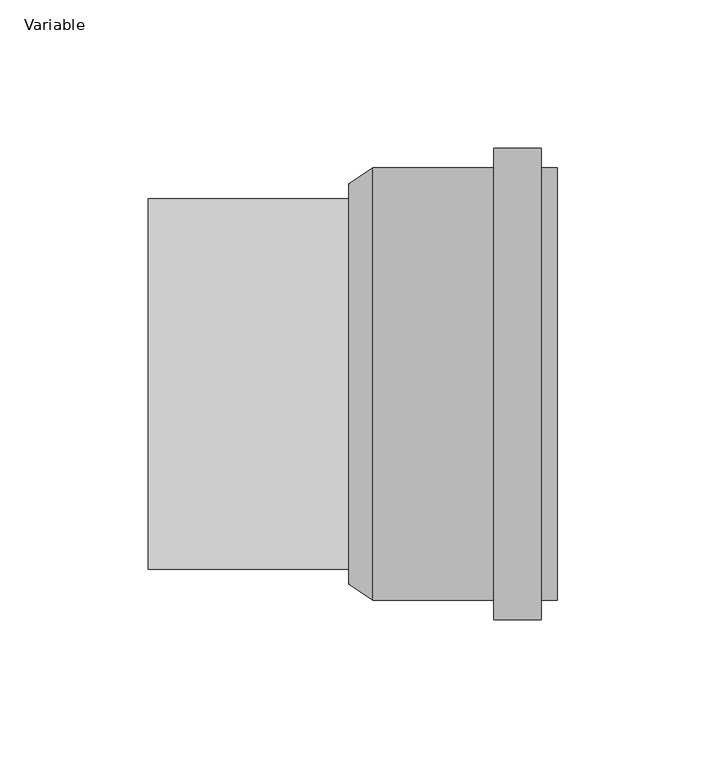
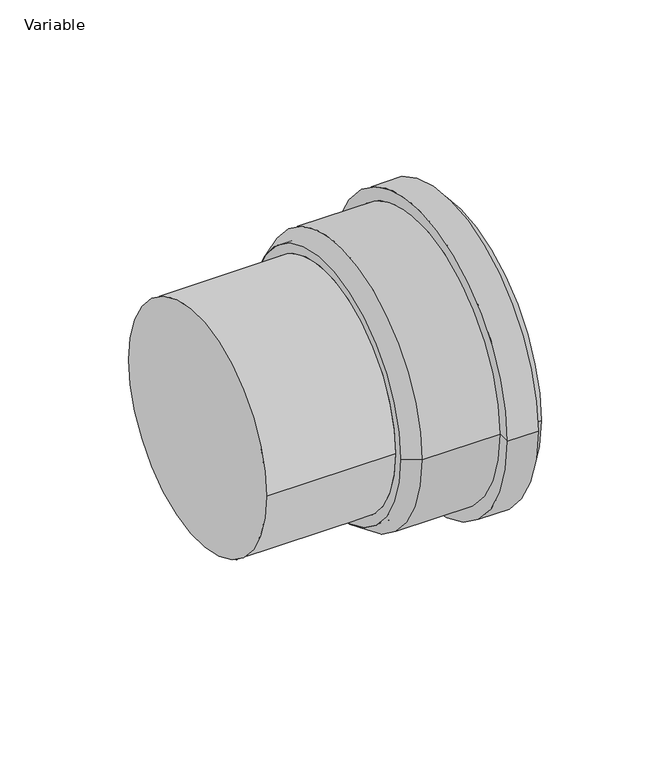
"""IFC4 building model written with IfcOpenShell, lengths in millimetres: pipe fitting geometry, AliaxisFR_Friaphon_AdaptorFriaphonPVC_FR : Variable."""

import ifcopenshell
import ifcopenshell.guid

model = None  # the IFC model being written
_history = None  # IfcOwnerHistory: only IFC2X3 demands one
_inside = {}  # id of a spatial element -> (the spatial element, [elements in it])
_under = {}  # id of a project, library or spatial element -> (it, [spatial elements below it])
_declared = {}  # id of a project -> (the project, [libraries it declares])
_typed = {}  # id of a type object -> (the type object, [elements of that type])
_made_of = {}  # id of a material, layer set ... -> (it, [elements and type objects made of it])


def new_model(schema):
    """Start an empty IFC model of exactly this schema.

    Asked for "IFC4X3", IfcOpenShell would pick the latest addendum, in which some entities
    have other attributes; the version numbers below select the first issue.
    IFC2X3 requires an IfcOwnerHistory on every rooted entity: one is made here for all.
    """
    global model, _history
    if schema == "IFC4X3":
        model = ifcopenshell.file(schema_version=(4, 3, 0, 0))
    else:
        model = ifcopenshell.file(schema=schema)
    _inside.clear()
    _under.clear()
    _declared.clear()
    _typed.clear()
    _made_of.clear()
    _history = None
    if model.schema == "IFC2X3":
        org = make("IfcOrganization", Name="unknown")
        user = make(
            "IfcPersonAndOrganization",
            ThePerson=make("IfcPerson", FamilyName="unknown"),
            TheOrganization=org,
        )
        app = make(
            "IfcApplication",
            ApplicationDeveloper=org,
            Version="unknown",
            ApplicationFullName="unknown",
            ApplicationIdentifier="unknown",
        )
        _history = make(
            "IfcOwnerHistory",
            OwningUser=user,
            OwningApplication=app,
            ChangeAction="ADDED",
            CreationDate=0,
        )
    return model


def make(cls, **values):
    """One entity of the class cls with the attributes given. An attribute that is None is left unset."""
    return model.create_entity(
        cls, **{name: value for name, value in values.items() if value is not None}
    )


def rooted(cls, **values):
    """An entity with a GlobalId (a new one), such as an element, a storey or a relation."""
    return make(cls, GlobalId=ifcopenshell.guid.new(), OwnerHistory=_history, **values)


def si_unit(unit_type, name, prefix=None):
    """IfcSIUnit, for example si_unit("LENGTHUNIT", "METRE", prefix="MILLI")."""
    return make("IfcSIUnit", UnitType=unit_type, Prefix=prefix, Name=name)


def assignment(units):
    """IfcUnitAssignment: the units of a project."""
    return None if units is None else make("IfcUnitAssignment", Units=units)


def point(xyz):
    """IfcCartesianPoint."""
    return None if xyz is None else make("IfcCartesianPoint", Coordinates=xyz)


def direction(xyz):
    """IfcDirection."""
    return None if xyz is None else make("IfcDirection", DirectionRatios=xyz)


def frame(location, z_axis=None, x_axis=None):
    """IfcAxis2Placement3D, a coordinate frame: its origin and axes. An axis left out is left unset."""
    return make(
        "IfcAxis2Placement3D",
        Location=point(location),
        Axis=direction(z_axis),
        RefDirection=direction(x_axis),
    )


def origin():
    """The frame at (0, 0, 0) with its axes left unset."""
    return frame((0.0, 0.0, 0.0))


def place(relative_to, where):
    """IfcLocalPlacement: puts the frame where relative to a parent placement (None: the world)."""
    return make(
        "IfcLocalPlacement", PlacementRelTo=relative_to, RelativePlacement=where
    )


def context(
    kind, dimensions, precision=None, world=None, true_north=None, identifier=None
):
    """IfcGeometricRepresentationContext, for example the 3D "Model" context."""
    return make(
        "IfcGeometricRepresentationContext",
        ContextIdentifier=identifier,
        ContextType=kind,
        CoordinateSpaceDimension=dimensions,
        Precision=precision,
        WorldCoordinateSystem=world,
        TrueNorth=true_north,
    )


def project(units=None, contexts=None):
    """IfcProject with its units and contexts."""
    return rooted(
        "IfcProject",
        Name="project",
        RepresentationContexts=contexts,
        UnitsInContext=assignment(units),
    )


def spatial(cls, under=None, at=None, **own):
    """A site, building, storey or space (cls), placed at a placement, below another one or the project."""
    s = rooted(cls, ObjectPlacement=at, **own)
    if under is not None:
        _under.setdefault(under.id(), (under, []))[1].append(s)
    return s


def polyline(points):
    """IfcPolyline through the points."""
    return make("IfcPolyline", Points=[point(p) for p in points])


def circle_curve(where, radius):
    """IfcCircle in the frame where."""
    return make("IfcCircle", Position=where, Radius=radius)


def shape(context_of_items, identifier, shape_type, items):
    """IfcShapeRepresentation: the items that make up one representation, for example the "Body"."""
    return make(
        "IfcShapeRepresentation",
        ContextOfItems=context_of_items,
        RepresentationIdentifier=identifier,
        RepresentationType=shape_type,
        Items=items,
    )


def source(mapping_origin, context_of_items, identifier, shape_type, items):
    """IfcRepresentationMap: a shape defined once, which mapped items show again and again."""
    return make(
        "IfcRepresentationMap",
        MappingOrigin=mapping_origin,
        MappedRepresentation=shape(context_of_items, identifier, shape_type, items),
    )


def transform(
    local_origin,
    x_axis=None,
    y_axis=None,
    z_axis=None,
    scale=None,
    scale2=None,
    scale3=None,
    uniform=True,
):
    """IfcCartesianTransformationOperator3D, or its non-uniform kind. x_axis, y_axis, z_axis: its Axis1, 2, 3."""
    if uniform:
        return make(
            "IfcCartesianTransformationOperator3D",
            Axis1=direction(x_axis),
            Axis2=direction(y_axis),
            LocalOrigin=point(local_origin),
            Scale=scale,
            Axis3=direction(z_axis),
        )
    return make(
        "IfcCartesianTransformationOperator3DnonUniform",
        Axis1=direction(x_axis),
        Axis2=direction(y_axis),
        LocalOrigin=point(local_origin),
        Scale=scale,
        Axis3=direction(z_axis),
        Scale2=scale2,
        Scale3=scale3,
    )


def mapped(mapping_source, mapping_target):
    """IfcMappedItem: shows the shape of a source again, moved by a transform."""
    return make(
        "IfcMappedItem", MappingSource=mapping_source, MappingTarget=mapping_target
    )


def made_of(thing, what):
    """Note that an element or type object is made of a material, layer set ...; save() writes the relation."""
    if what is not None:
        _made_of.setdefault(what.id(), (what, []))[1].append(thing)
    return thing


def element(
    cls,
    number,
    at=None,
    inside=None,
    cuts=None,
    type_object=None,
    material=None,
    context=None,
    identifier="Body",
    shape_type=None,
    held_by="IfcProductDefinitionShape",
    body=None,
    shapes=None,
    **own,
):
    """One element of the class cls, such as IfcWall. Its Tag is "e" and its number.

    at: its placement. inside: the storey or other place that contains it. cuts: it is an
    opening in that element (IfcRelVoidsElement). A single representation is given by context,
    identifier, shape_type and body (its items); several are given by shapes. held_by: the class
    of the entity that holds the representations. save() writes the other relations.
    """
    e = rooted(cls, Tag="e%d" % number, ObjectPlacement=at, **own)
    if body is not None:
        shapes = [shape(context, identifier, shape_type, body)]
    if shapes is not None:
        e.Representation = make(held_by, Representations=shapes)
    if inside is not None:
        _inside.setdefault(inside.id(), (inside, []))[1].append(e)
    if cuts is not None:
        rooted(
            "IfcRelVoidsElement", RelatingBuildingElement=cuts, RelatedOpeningElement=e
        )
    if type_object is not None:
        _typed.setdefault(type_object.id(), (type_object, []))[1].append(e)
    return made_of(e, material)


def aggregate(whole, parts):
    """IfcRelAggregates: a whole, such as a stair, and the parts it consists of."""
    return rooted("IfcRelAggregates", RelatingObject=whole, RelatedObjects=parts)


def save(model, path):
    """Write the relations noted so far, then the file.

    IfcRelAggregates (storeys below a building ...), IfcRelContainedInSpatialStructure (elements
    in a storey), IfcRelDefinesByType, IfcRelAssociatesMaterial and IfcRelDeclares: one each for
    every whole, place, type object, material and project.
    """
    for whole, parts in _under.values():
        aggregate(whole, parts)
    for where, things in _inside.values():
        rooted(
            "IfcRelContainedInSpatialStructure",
            RelatedElements=things,
            RelatingStructure=where,
        )
    for kind, things in _typed.values():
        rooted("IfcRelDefinesByType", RelatedObjects=things, RelatingType=kind)
    for what, things in _made_of.values():
        rooted("IfcRelAssociatesMaterial", RelatedObjects=things, RelatingMaterial=what)
    for by, libraries in _declared.values():
        rooted("IfcRelDeclares", RelatingContext=by, RelatedDefinitions=libraries)
    model.write(path)


def plane_surface(at):
    """IfcPlane: the flat surface through the origin of the frame at, square to its z axis."""
    return make("IfcPlane", Position=at)


def cylinder_surface(at, radius):
    """IfcCylindricalSurface: all points at the distance radius from the z axis of the frame at."""
    return make("IfcCylindricalSurface", Position=at, Radius=radius)


def revolved_surface(curve, axis_point, axis_direction):
    """IfcSurfaceOfRevolution: the curve turned about the line through axis_point along axis_direction."""
    return make(
        "IfcSurfaceOfRevolution",
        SweptCurve=make("IfcArbitraryOpenProfileDef", ProfileType="CURVE", Curve=curve),
        AxisPosition=make("IfcAxis1Placement", Location=point(axis_point), Axis=direction(axis_direction)),
    )


def advanced_brep(points, edges, surfaces, faces):
    """IfcAdvancedBrep: a solid bounded by faces that lie on surfaces and meet in shared edges.

    An edge is (start, end): straight between two places in points (the first is 0);
    or (start, end, curve); or (start, end, curve, False) where it runs against its curve.
    A face is (place in surfaces, loops), or (place, loops, False) where it looks against
    its surface's normal. A loop lists edges by number (the first is 1), with a minus sign
    where the edge is run from its end to its start. The first loop is the outer one.
    """
    corners = [point(p) for p in points]
    vertices = [make("IfcVertexPoint", VertexGeometry=c) for c in corners]
    made = []
    for start, end, *more in edges:
        made.append(
            make(
                "IfcEdgeCurve",
                EdgeStart=vertices[start],
                EdgeEnd=vertices[end],
                EdgeGeometry=more[0] if more else make("IfcPolyline", Points=[corners[start], corners[end]]),
                SameSense=more[1] if len(more) > 1 else True,
            )
        )
    hull = []
    for where, loops, *sense in faces:
        bounds = []
        for j, loop in enumerate(loops):
            ring = [make("IfcOrientedEdge", EdgeElement=made[abs(k) - 1], Orientation=k > 0) for k in loop]
            bounds.append(
                make(
                    "IfcFaceOuterBound" if j == 0 else "IfcFaceBound",
                    Bound=make("IfcEdgeLoop", EdgeList=ring),
                    Orientation=True,
                )
            )
        hull.append(make("IfcAdvancedFace", Bounds=bounds, FaceSurface=surfaces[where], SameSense=sense[0] if sense else True))
    return make("IfcAdvancedBrep", Outer=make("IfcClosedShell", CfsFaces=hull))


def variable_6aac6152(model_context):
    return source(origin(), model_context, "Body", "AdvancedBrep", [
        advanced_brep(
        [(138.0, -72.9, 0.0), (138.0, 72.9, 0.0), (138.0, 67.5, 0.0), (138.0, -67.5, 0.0), (116.5, -79.5, 0.0), (116.5, 79.5, 0.0), (132.6, 79.5, 0.0), (132.6, -79.5, 0.0), (116.5, -72.9, 0.0), (116.5, 72.9, 0.0), (75.7, -72.9, 0.0), (75.7, 72.9, 0.0), (67.6, 67.5, 0.0), (67.6, -67.5, 0.0), (132.6, -72.9, 0.0), (132.6, 72.9, 0.0)],
        [
            (0, 1, circle_curve(frame((138.0, 0.0, 0.0), z_axis=(1.0, 0.0, 0.0), x_axis=(0.0, 1.0, 0.0)), 72.9)),
            (1, 2),
            (2, 3, circle_curve(frame((138.0, 0.0, 0.0), z_axis=(-1.0, 0.0, 0.0), x_axis=(0.0, 1.0, 0.0)), 67.5)),
            (3, 0),
            (1, 0, circle_curve(frame((138.0, 0.0, 0.0), z_axis=(1.0, 0.0, 0.0), x_axis=(0.0, 1.0, 0.0)), 72.9)),
            (3, 2, circle_curve(frame((138.0, 0.0, 0.0), z_axis=(-1.0, 0.0, 0.0), x_axis=(0.0, 1.0, 0.0)), 67.5)),
            (4, 5, circle_curve(frame((116.5, 0.0, 0.0), z_axis=(1.0, 0.0, 0.0), x_axis=(0.0, 1.0, 0.0)), 79.5)),
            (5, 6),
            (6, 7, circle_curve(frame((132.6, 0.0, 0.0), z_axis=(-1.0, 0.0, 0.0), x_axis=(0.0, 1.0, 0.0)), 79.5)),
            (7, 4),
            (5, 4, circle_curve(frame((116.5, 0.0, 0.0), z_axis=(1.0, 0.0, 0.0), x_axis=(0.0, 1.0, 0.0)), 79.5)),
            (7, 6, circle_curve(frame((132.6, 0.0, 0.0), z_axis=(-1.0, 0.0, 0.0), x_axis=(0.0, 1.0, 0.0)), 79.5)),
            (8, 9, circle_curve(frame((116.5, 0.0, 0.0), z_axis=(1.0, 0.0, 0.0), x_axis=(0.0, 1.0, 0.0)), 72.9)),
            (9, 5),
            (4, 8),
            (9, 8, circle_curve(frame((116.5, 0.0, 0.0), z_axis=(1.0, 0.0, 0.0), x_axis=(0.0, 1.0, 0.0)), 72.9)),
            (10, 11, circle_curve(frame((75.7, 0.0, 0.0), z_axis=(1.0, 0.0, 0.0), x_axis=(0.0, 1.0, 0.0)), 72.9)),
            (11, 9),
            (8, 10),
            (11, 10, circle_curve(frame((75.7, 0.0, 0.0), z_axis=(1.0, 0.0, 0.0), x_axis=(0.0, 1.0, 0.0)), 72.9)),
            (2, 12),
            (12, 13, circle_curve(frame((67.6, 0.0, 0.0), z_axis=(-1.0, 0.0, 0.0), x_axis=(0.0, 1.0, 0.0)), 67.5)),
            (13, 3),
            (13, 12, circle_curve(frame((67.6, 0.0, 0.0), z_axis=(-1.0, 0.0, 0.0), x_axis=(0.0, 1.0, 0.0)), 67.5)),
            (12, 11),
            (10, 13),
            (14, 15, circle_curve(frame((132.6, 0.0, 0.0), z_axis=(1.0, 0.0, 0.0), x_axis=(0.0, 1.0, 0.0)), 72.9)),
            (15, 1),
            (0, 14),
            (15, 14, circle_curve(frame((132.6, 0.0, 0.0), z_axis=(1.0, 0.0, 0.0), x_axis=(0.0, 1.0, 0.0)), 72.9)),
            (6, 15),
            (14, 7),
        ],
        [
            plane_surface(frame((138.0, 0.0, 0.0), z_axis=(1.0, 0.0, 0.0), x_axis=(0.0, 1.0, 0.0))),
            cylinder_surface(frame((67.6, 0.0, 0.0), z_axis=(-1.0, 0.0, 0.0), x_axis=(0.0, 1.0, 0.0)), 79.5),
            plane_surface(frame((116.5, 0.0, 0.0), z_axis=(-1.0, 0.0, 0.0), x_axis=(0.0, 1.0, 0.0))),
            cylinder_surface(frame((67.6, 0.0, 0.0), z_axis=(-1.0, 0.0, 0.0), x_axis=(0.0, 1.0, 0.0)), 72.9),
            revolved_surface(polyline([(67.6, 67.5, 0.0), (138.0, 67.5, 0.0)]), (67.6, 0.0, 0.0), (-1.0, 0.0, 0.0)),
            revolved_surface(polyline([(75.7, 72.9, 0.0), (67.6, 67.5, 0.0)]), (67.6, 0.0, 0.0), (-1.0, 0.0, 0.0)),
            plane_surface(frame((132.6, 0.0, 0.0), z_axis=(1.0, 0.0, 0.0), x_axis=(0.0, 1.0, 0.0))),
        ],
        [
            (0, [[1, 2, 3, 4]]),
            (0, [[5, -4, 6, -2]]),
            (1, [[7, 8, 9, 10]]),
            (1, [[11, -10, 12, -8]]),
            (2, [[13, 14, -7, 15]]),
            (2, [[16, -15, -11, -14]]),
            (3, [[17, 18, -13, 19]]),
            (3, [[20, -19, -16, -18]]),
            (4, [[-3, 21, 22, 23]]),
            (4, [[-6, -23, 24, -21]]),
            (5, [[-22, 25, -17, 26]]),
            (5, [[-24, -26, -20, -25]]),
            (3, [[27, 28, -1, 29]]),
            (3, [[30, -29, -5, -28]]),
            (6, [[-9, 31, -27, 32]]),
            (6, [[-12, -32, -30, -31]]),
        ],
    ),
        advanced_brep(
        [(73.0, -67.5, 0.0), (73.0, 67.5, 0.0), (67.6, -67.5, 0.0), (67.6, 67.5, 0.0), (67.6, -62.5, 0.0), (67.6, 62.5, 0.0), (0.0, -62.5, 0.0), (0.0, 62.5, 0.0)],
        [
            (0, 1, circle_curve(frame((73.0, 0.0, 0.0), z_axis=(1.0, 0.0, 0.0), x_axis=(0.0, 1.0, 0.0)), 67.5)),
            (1, 0, circle_curve(frame((73.0, 0.0, 0.0), z_axis=(1.0, 0.0, 0.0), x_axis=(0.0, 1.0, 0.0)), 67.5)),
            (2, 3, circle_curve(frame((67.6, 0.0, 0.0), z_axis=(-1.0, 0.0, 0.0), x_axis=(0.0, 1.0, 0.0)), 67.5)),
            (3, 2, circle_curve(frame((67.6, 0.0, 0.0), z_axis=(-1.0, 0.0, 0.0), x_axis=(0.0, 1.0, 0.0)), 67.5)),
            (4, 5, circle_curve(frame((67.6, 0.0, 0.0), z_axis=(1.0, 0.0, 0.0), x_axis=(0.0, 1.0, 0.0)), 62.5)),
            (5, 4, circle_curve(frame((67.6, 0.0, 0.0), z_axis=(1.0, 0.0, 0.0), x_axis=(0.0, 1.0, 0.0)), 62.5)),
            (0, 2),
            (3, 1),
            (6, 7, circle_curve(frame((0.0, 0.0, 0.0), z_axis=(-1.0, 0.0, 0.0), x_axis=(0.0, 1.0, 0.0)), 62.5)),
            (7, 6, circle_curve(frame((0.0, 0.0, 0.0), z_axis=(-1.0, 0.0, 0.0), x_axis=(0.0, 1.0, 0.0)), 62.5)),
            (7, 5),
            (4, 6),
        ],
        [
            plane_surface(frame((73.0, 67.5, 0.0), z_axis=(1.0, 0.0, 0.0), x_axis=(0.0, 0.0, 1.0))),
            plane_surface(frame((67.6, 67.5, 0.0), z_axis=(-1.0, 0.0, 0.0), x_axis=(0.0, 0.0, -1.0))),
            cylinder_surface(frame((67.6, 0.0, 0.0), z_axis=(1.0, 0.0, 0.0), x_axis=(0.0, 1.0, 0.0)), 67.5),
            plane_surface(frame((0.0, 62.5, 0.0), z_axis=(-1.0, 0.0, 0.0), x_axis=(0.0, 0.0, -1.0))),
            cylinder_surface(frame((0.0, 0.0, 0.0), z_axis=(1.0, 0.0, 0.0), x_axis=(0.0, 1.0, 0.0)), 62.5),
        ],
        [
            (0, [[1, 2]]),
            (1, [[3, 4], [5, 6]]),
            (2, [[-1, 7, -4, 8]]),
            (2, [[-2, -8, -3, -7]]),
            (3, [[9, 10]]),
            (4, [[-10, 11, -5, 12]]),
            (4, [[-9, -12, -6, -11]]),
        ],
    ),
    ])


if __name__ == "__main__":
    model = new_model("IFC4")
    model_context = context("Model", 3, world=origin())
    ifc_project = project(units=[si_unit("LENGTHUNIT", "METRE", prefix="MILLI")], contexts=[model_context])
    site = spatial("IfcSite", under=ifc_project)
    building = spatial("IfcBuilding", under=site)
    placement = place(None, origin())
    variable_shape = variable_6aac6152(model_context)
    element("IfcPipeFitting", 1, ObjectType="AliaxisFR_Friaphon_AdaptorFriaphonPVC_FR : Variable", at=placement, inside=building, context=model_context, shape_type="MappedRepresentation", body=[
        mapped(variable_shape, transform((0.0, 0.0, 0.0), x_axis=(1.0, 0.0, 0.0), y_axis=(0.0, 1.0, 0.0), z_axis=(0.0, 0.0, 1.0))),
    ])
    save(model, "model.ifc")
